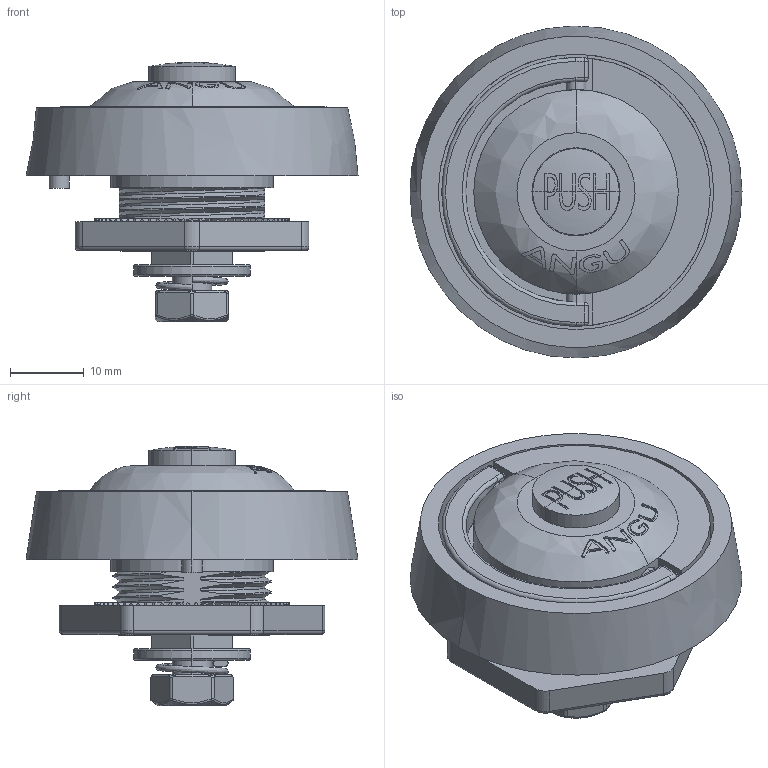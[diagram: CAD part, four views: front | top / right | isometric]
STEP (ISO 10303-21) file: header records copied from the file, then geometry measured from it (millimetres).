
FILE_DESCRIPTION (( 'STEP AP203' ), '1' );
FILE_NAME ('A-50 圓型拉環式門鎖.stp', '2022-05-02T06:22:55', ( '' ), ( '' ), 'SwSTEP 2.0', 'SolidWorks 2020', '' );
FILE_SCHEMA (( 'CONFIG_CONTROL_DESIGN' ));
Products named in the file (1): A-50 圓型拉環式門鎖
Bounding box: 45 x 44.99 x 35.2 mm (x, y, z)
Volume: 18912.7 mm3; surface area: 14156.7 mm2
Topology: 5 solids, 10 shells, 1243 faces, 3325 edges, 2114 vertices
Faces by surface type: plane 659, bspline 251, cylinder 222, torus 61, cone 42, sphere 8
Entity records: 73368 total; most frequent: CARTESIAN_POINT 46287, ORIENTED_EDGE 6630, DIRECTION 4179, EDGE_CURVE 3315, VERTEX_POINT 2114, AXIS2_PLACEMENT_3D 1394, LINE 1391, VECTOR 1391
